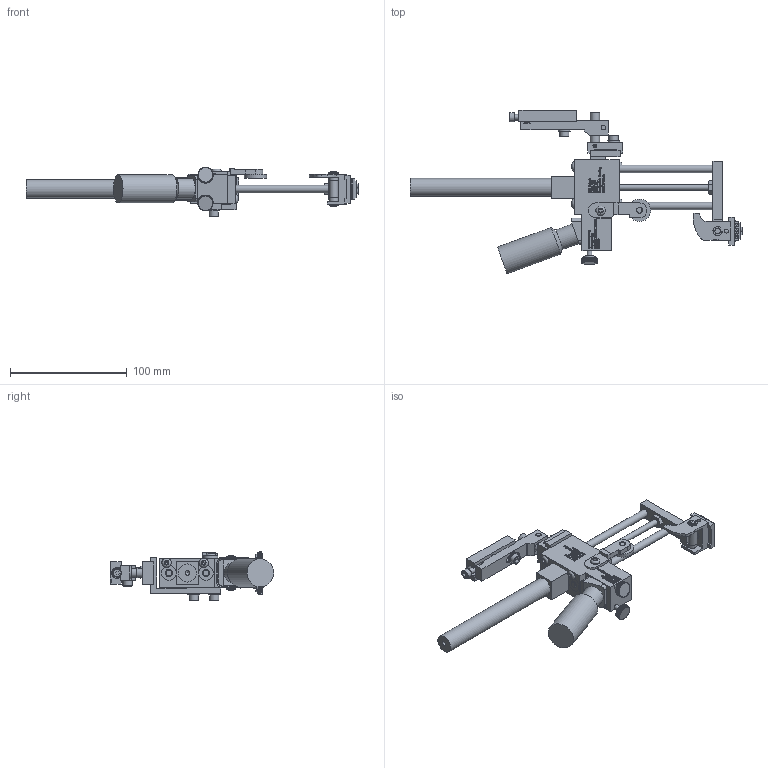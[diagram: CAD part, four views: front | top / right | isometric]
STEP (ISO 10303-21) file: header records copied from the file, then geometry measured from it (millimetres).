
FILE_DESCRIPTION((''),'2;1');
FILE_NAME('C:\Documents and Settings\Ron\My Documents\Inventor\Sprinter Drawing\Machines in Inventor\Model 66\Type\Ext Str\E1\Brkt\Ext\Model 66 ES1 type Ext w brkt mod 2012.stp','2012-02-29T08:13:25',('Ron'),(''),'Autodesk Inventor 2011','Autodesk Inventor 2011','');
FILE_SCHEMA(('AUTOMOTIVE_DESIGN { 1 0 10303 214 1 1 1 1 }'));
Length unit declared in the file: inch
Products named in the file (43): Model 66 ES1 type Ext w brkt mod 2012; 66 Frame Body Assy Std w brkt; 66 Frame Body; Hexagon Socket Button Head Cap Screw - Inch 8 - 32 x 1/4; Hexagon Socket Head Cap Screw - Inch No. 8 - 32 UNC - 1 1/2; 66 Linear Bearing; 66 Ink; 66 INK BOTTLE; 66 Ink Pad; 66 Wheel Bracket; 8-32x0.25 Hexagon Socket Button Head Cap Screw ANSI/ASME B18.3; 44 Cam Wheel; 44 Wheel Retainer; 10 Ink Resevior Lock Screw; Model 66 Bracket; Model 66 RPB; rpb4; rpb3; rpb-1; rpb2; No. 10-24x0.88 Hexagon socket head cap screw ANSI/ASME B18.3; Type B - Plain Washer (Inch) No. 10 - narrow - Type B; 66 Machine Mounting Pivot Bracket; Pin - Hardened Ground Machine Dowel (Inch) 1/8 x 3/8; Rod Carrier Extended E1; Rod Carrier Extended; 66 Rod Carrier; Type A - Hexagon Socket Set Screw - Cup Point - Inch 8-32 UNC x 0.32; 66 PIVOT SHAFT; 66 PIVOT SHAFT LOCKING RING; 23 66 invert block; AS 1112 (4)  - Metric M6; 66 Spring; 19 Rod Carrier Set Screws; 44 & up Removable Marking Head Securing Post; Hexagon Socket Set Screw - Flat Point - Inch 6-32 UNC x 0.45; 66 type clip; 66 Marking Head Plate; 66-28; Part # 28 - number 66 stamp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
Assembly tree (60 placements, depth 5):
  Model 66 ES1 type Ext w brkt mod 2012
    66 Frame Body Assy Std w brkt
      66 Frame Body
      Hexagon Socket Button Head Cap Screw - Inch 8 - 32 x 1/4  x4
      Hexagon Socket Head Cap Screw - Inch No. 8 - 32 UNC - 1 1/2  x2
      66 Linear Bearing  x2
      66 Ink
      66 INK BOTTLE
      66 Ink Pad
      66 Wheel Bracket
      8-32x0.25 Hexagon Socket Button Head Cap Screw ANSI/ASME B18.3
      44 Cam Wheel
      44 Wheel Retainer
      10 Ink Resevior Lock Screw  x2
      Model 66 Bracket
        Model 66 RPB
          rpb4
          rpb3
          rpb-1
          rpb2
          No. 10-24x0.88 Hexagon socket head cap screw ANSI/ASME B18.3  x5
          Type B - Plain Washer (Inch) No. 10 - narrow - Type B  x4
          66 Machine Mounting Pivot Bracket
          Pin - Hardened Ground Machine Dowel (Inch) 1/8 x 3/8  x2
    Rod Carrier Extended E1
      Rod Carrier Extended
        66 Rod Carrier
        Type A - Hexagon Socket Set Screw - Cup Point - Inch 8-32 UNC x 0.32
        66 PIVOT SHAFT
        66 PIVOT SHAFT LOCKING RING  x2
        23 66 invert block
        AS 1112 (4)  - Metric M6
        66 Spring
        19 Rod Carrier Set Screws  x2
        44 & up Removable Marking Head Securing Post
        Hexagon Socket Set Screw - Flat Point - Inch 6-32 UNC x 0.45
        66 type clip
          66 Marking Head Plate
          44 & up Removable Marking Head Securing Post
          66-28
          Part # 28 - number 66 stamp
      Model 66, E1 .25 x 5  x2
    E1 Extended
    10-32 PORTS DECAL
Bounding box: 283.9 x 139.56 x 42.07 mm (x, y, z)
Volume: 173522.6 mm3; surface area: 89355 mm2
Topology: 427 solids, 427 shells, 6316 faces, 15463 edges, 9558 vertices
Faces by surface type: plane 4356, bspline 1301, cylinder 555, cone 81, torus 23
Full cylindrical faces by diameter (mm): 1.575 x1, 2.54 x2, 2.642 x2, 3.175 x4, 3.2 x1, 3.302 x12, 3.505 x1, 3.658 x1, 3.683 x2, 3.962 x12, 4.064 x2, 4.166 x10, 4.318 x2, 4.699 x3, 4.75 x3, 4.775 x2, 4.826 x8, 4.864 x2, 4.917 x1, 5.08 x2, 5.156 x7, 5.182 x1, 5.359 x1, 5.556 x1, 6.325 x2, 6.35 x7, 6.426 x1, 6.604 x1, 6.858 x2, 7.353 x4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
Entity records: 150148 total; most frequent: CARTESIAN_POINT 44656, ORIENTED_EDGE 23348, DIRECTION 16757, EDGE_CURVE 11674, VECTOR 8277, LINE 8277, VERTEX_POINT 7484, EDGE_LOOP 5214
